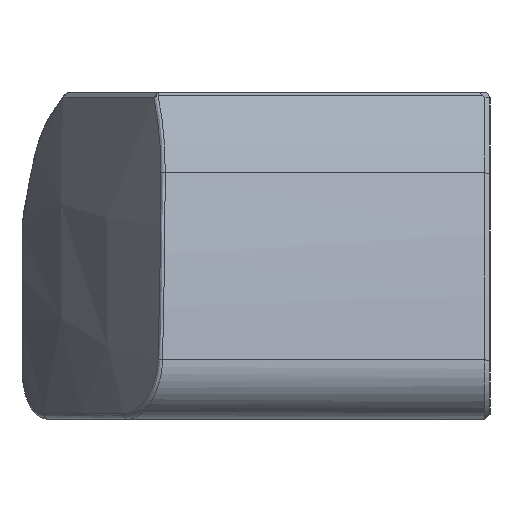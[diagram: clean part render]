
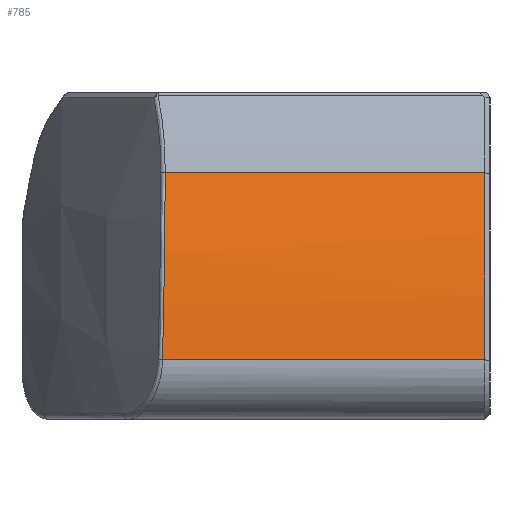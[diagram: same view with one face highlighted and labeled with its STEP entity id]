
A CAD part, left-side view. The second image highlights one B-rep face of the part: STEP entity #785.
In plain terms, the highlighted cylindrical face has radius 68 mm (diameter 136 mm), a partial arc.
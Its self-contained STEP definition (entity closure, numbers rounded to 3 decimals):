
#418 = CIRCLE ( 'NONE', #6301, 68. ) ;
#785 = ADVANCED_FACE ( 'NONE', ( #2881 ), #2885, .T. ) ;
#1009 = ORIENTED_EDGE ( 'NONE', *, *, #2990, .T. ) ;
#1037 = ORIENTED_EDGE ( 'NONE', *, *, #2952, .T. ) ;
#1043 = ORIENTED_EDGE ( 'NONE', *, *, #2937, .T. ) ;
#1140 = EDGE_LOOP ( 'NONE', ( #1009, #1043, #1037, #4102 ) ) ;
#1223 = VECTOR ( 'NONE', #4557, 1000. ) ;
#1719 = LINE ( 'NONE', #1720, #6271 ) ;
#1720 = CARTESIAN_POINT ( 'NONE',  ( -63.662, -5., 23.9 ) ) ;
#1721 = DIRECTION ( 'NONE',  ( 0., 1., 0. ) ) ;
#2038 = CARTESIAN_POINT ( 'NONE',  ( 0., -4.6, 0. ) ) ;
#2039 = DIRECTION ( 'NONE',  ( 0., 1., 0. ) ) ;
#2040 = DIRECTION ( 'NONE',  ( 0., 0., 1. ) ) ;
#2174 = CARTESIAN_POINT ( 'NONE',  ( -67.324, 20.053, 9.562 ) ) ;
#2190 = CARTESIAN_POINT ( 'NONE',  ( -63.662, -4.6, 23.9 ) ) ;
#2198 = CARTESIAN_POINT ( 'NONE',  ( -67.324, -4.6, 9.562 ) ) ;
#2223 = CARTESIAN_POINT ( 'NONE',  ( -63.662, 19.842, 23.9 ) ) ;
#2532 = CARTESIAN_POINT ( 'NONE',  ( 0., -5., 0. ) ) ;
#2534 = DIRECTION ( 'NONE',  ( 0., 1., 0. ) ) ;
#2535 = DIRECTION ( 'NONE',  ( 0., 0., 1. ) ) ;
#2668 = B_SPLINE_CURVE_WITH_KNOTS ( 'NONE', 3,
 ( #4429, #4430, #4431, #4432, #4433 ),
 .UNSPECIFIED., .F., .F.,
 ( 4, 1, 4 ),
 ( 0., 0.007, 0.015 ),
 .UNSPECIFIED. ) ;
#2880 = AXIS2_PLACEMENT_3D ( 'NONE', #2532, #2534, #2535 ) ;
#2881 = FACE_OUTER_BOUND ( 'NONE', #1140, .T. ) ;
#2885 = CYLINDRICAL_SURFACE ( 'NONE', #2880, 68. ) ;
#2937 = EDGE_CURVE ( 'NONE', #3780, #3484, #2668, .T. ) ;
#2952 = EDGE_CURVE ( 'NONE', #3484, #3508, #4555, .T. ) ;
#2990 = EDGE_CURVE ( 'NONE', #3500, #3780, #1719, .T. ) ;
#3082 = EDGE_CURVE ( 'NONE', #3508, #3500, #418, .T. ) ;
#3484 = VERTEX_POINT ( 'NONE', #2174 ) ;
#3500 = VERTEX_POINT ( 'NONE', #2190 ) ;
#3508 = VERTEX_POINT ( 'NONE', #2198 ) ;
#3780 = VERTEX_POINT ( 'NONE', #2223 ) ;
#4102 = ORIENTED_EDGE ( 'NONE', *, *, #3082, .T. ) ;
#4429 = CARTESIAN_POINT ( 'NONE',  ( -63.662, 19.842, 23.9 ) ) ;
#4430 = CARTESIAN_POINT ( 'NONE',  ( -64.534, 19.85, 21.577 ) ) ;
#4431 = CARTESIAN_POINT ( 'NONE',  ( -66.014, 19.893, 16.864 ) ) ;
#4432 = CARTESIAN_POINT ( 'NONE',  ( -66.975, 19.991, 12.019 ) ) ;
#4433 = CARTESIAN_POINT ( 'NONE',  ( -67.324, 20.053, 9.562 ) ) ;
#4555 = LINE ( 'NONE', #4556, #1223 ) ;
#4556 = CARTESIAN_POINT ( 'NONE',  ( -67.324, -5., 9.562 ) ) ;
#4557 = DIRECTION ( 'NONE',  ( 0., -1., 0. ) ) ;
#6271 = VECTOR ( 'NONE', #1721, 1000. ) ;
#6301 = AXIS2_PLACEMENT_3D ( 'NONE', #2038, #2039, #2040 ) ;
